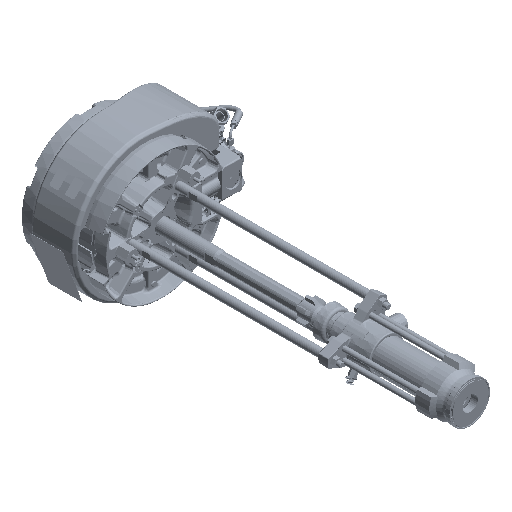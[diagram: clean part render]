
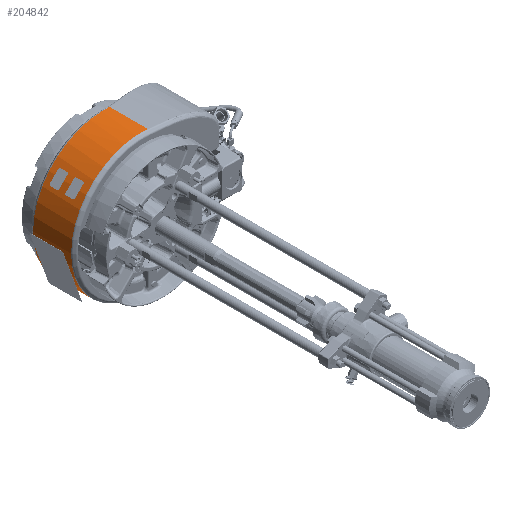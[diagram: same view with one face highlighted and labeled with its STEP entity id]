
A CAD part, isometric view. The second image highlights one B-rep face of the part: STEP entity #204842.
In plain terms, the highlighted cylindrical face has radius 227.33 mm (diameter 454.66 mm), a partial arc.
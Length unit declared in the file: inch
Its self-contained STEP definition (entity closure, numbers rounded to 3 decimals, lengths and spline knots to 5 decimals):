
#187136=CARTESIAN_POINT('',(-0.15263,-2.37355,
-8.9487));
#187137=CARTESIAN_POINT('',(-0.02283,-2.37354,
-8.95091));
#187138=CARTESIAN_POINT('',(0.22773,-2.36906,
-8.94954));
#187139=CARTESIAN_POINT('',(0.5757,-2.35174,
-8.93355));
#187140=CARTESIAN_POINT('',(0.78912,-2.3348,
-8.91573));
#187141=CARTESIAN_POINT('',(0.89118,-2.32537,
-8.90552));
#187143=CARTESIAN_POINT('',(0.,-2.37355,0.));
#187144=DIRECTION('',(0.,-1.,0.));
#187145=DIRECTION('',(-0.017,0.,1.));
#187146=AXIS2_PLACEMENT_3D('',#187143,#187144,#187145);
#187148=CARTESIAN_POINT('',(0.89118,-2.32537,
8.90552));
#187149=CARTESIAN_POINT('',(0.76261,-2.33725,
8.91839));
#187150=CARTESIAN_POINT('',(0.51353,-2.35585,
8.93769));
#187151=CARTESIAN_POINT('',(0.16531,-2.37072,
8.95057));
#187152=CARTESIAN_POINT('',(-0.04958,-2.37354,
8.95046));
#187153=CARTESIAN_POINT('',(-0.15263,-2.37355,
8.9487));
#187155=DIRECTION('',(0.,-1.,0.));
#187156=VECTOR('',#187155,4.92108);
#187157=CARTESIAN_POINT('',(0.89118,-2.32537,
8.90552));
#187158=LINE('',#187157,#187156);
#187159=CARTESIAN_POINT('',(0.,-7.24645,0.));
#187160=DIRECTION('',(0.,1.,0.));
#187161=DIRECTION('',(0.1,0.,-0.995));
#187162=AXIS2_PLACEMENT_3D('',#187159,#187160,#187161);
#187240=CARTESIAN_POINT('',(0.89118,-2.32537,
-8.90552));
#187242=DIRECTION('',(0.,-1.,0.));
#187243=VECTOR('',#187242,4.92108);
#187244=CARTESIAN_POINT('',(0.89118,-2.32537,
-8.90552));
#187245=LINE('',#187244,#187243);
#193251=VERTEX_POINT('',#187240);
#193253=VERTEX_POINT('',#187136);
#193255=CARTESIAN_POINT('',(-0.15263,-2.37355,
8.9487));
#193256=VERTEX_POINT('',#193255);
#193259=VERTEX_POINT('',#187148);
#193307=CARTESIAN_POINT('',(0.89118,-7.24645,
8.90552));
#193308=VERTEX_POINT('',#193307);
#193311=CARTESIAN_POINT('',(0.89118,-7.24645,
-8.90552));
#193312=VERTEX_POINT('',#193311);
#204825=CARTESIAN_POINT('',(0.,-7.66,0.));
#204826=DIRECTION('',(0.,1.,0.));
#204827=DIRECTION('',(0.,0.,-1.));
#204828=AXIS2_PLACEMENT_3D('',#204825,#204826,#204827);
#204829=CYLINDRICAL_SURFACE('',#204828,8.95);
#204831=ORIENTED_EDGE('',*,*,#204830,.F.);
#204833=ORIENTED_EDGE('',*,*,#204832,.F.);
#204834=ORIENTED_EDGE('',*,*,#204815,.F.);
#204835=ORIENTED_EDGE('',*,*,#204646,.T.);
#204837=ORIENTED_EDGE('',*,*,#204836,.F.);
#204839=ORIENTED_EDGE('',*,*,#204838,.F.);
#204840=EDGE_LOOP('',(#204831,#204833,#204834,#204835,#204837,#204839));
#204841=FACE_OUTER_BOUND('',#204840,.F.);
#204842=ADVANCED_FACE('',(#204841),#204829,.T.);
#187142=B_SPLINE_CURVE_WITH_KNOTS('',3,(#187136,#187137,#187138,#187139,#187140,
#187141),.UNSPECIFIED.,.F.,.F.,(4,1,1,4),(0.,0.33333,
0.66667,1.),.UNSPECIFIED.);
#187147=CIRCLE('',#187146,8.95);
#187154=B_SPLINE_CURVE_WITH_KNOTS('',3,(#187148,#187149,#187150,#187151,#187152,
#187153),.UNSPECIFIED.,.F.,.F.,(4,1,1,4),(0.,0.33333,
0.66667,1.),.UNSPECIFIED.);
#187163=CIRCLE('',#187162,8.95);
#204646=EDGE_CURVE('',#193259,#193308,#187158,.T.);
#204815=EDGE_CURVE('',#193259,#193256,#187154,.T.);
#204830=EDGE_CURVE('',#193253,#193251,#187142,.T.);
#204832=EDGE_CURVE('',#193256,#193253,#187147,.T.);
#204836=EDGE_CURVE('',#193312,#193308,#187163,.T.);
#204838=EDGE_CURVE('',#193251,#193312,#187245,.T.);
